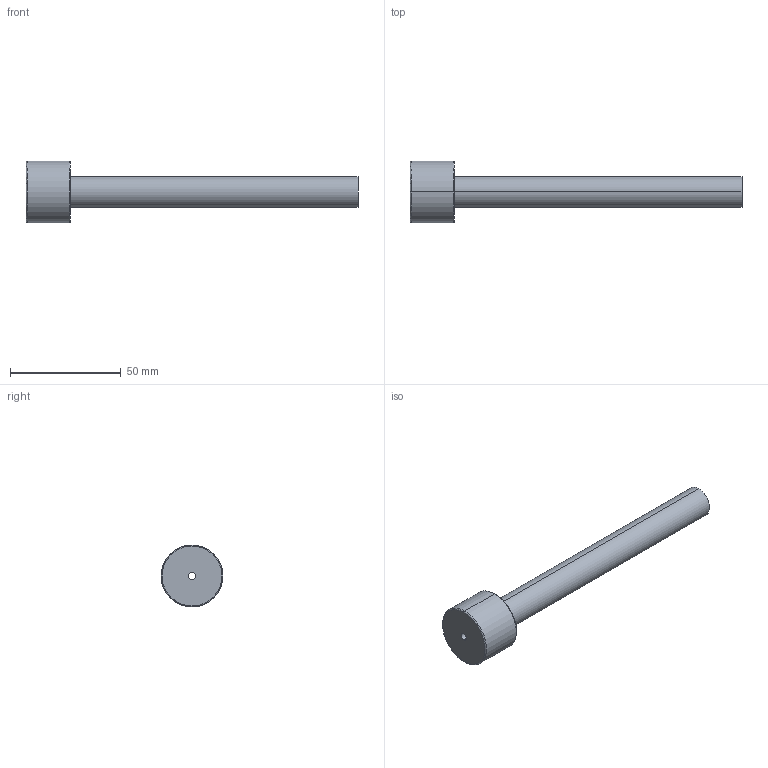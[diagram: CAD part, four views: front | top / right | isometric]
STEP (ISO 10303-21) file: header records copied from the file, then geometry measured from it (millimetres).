
FILE_DESCRIPTION(('CATIA V5 STEP Exchange'),'2;1');
FILE_NAME('C:\Users\Utente\Desktop\IO LAVORO\3D X SITO CF\X SITO\PLASTICA\3D files 367\367-14X150.stp','2021-03-24T15:19:32+00:00',('none'),('none'),'CATIA Version 5 Release 20 GA (IN-10)','CATIA V5 STEP AP203','none');
FILE_SCHEMA(('CONFIG_CONTROL_DESIGN'));
Length unit declared in the file: millimetre
Products named in the file (1): 367-14X150
Bounding box: 150 x 28 x 28 mm (x, y, z)
Volume: 25557.1 mm3; surface area: 11971.5 mm2
Topology: 1 solids, 1 shells, 13 faces, 42 edges, 32 vertices
Faces by surface type: torus 4, cylinder 4, plane 3, cone 2
Entity records: 608 total; most frequent: CARTESIAN_POINT 194, ORIENTED_EDGE 84, DIRECTION 60, AXIS2_PLACEMENT_3D 42, EDGE_CURVE 42, VERTEX_POINT 32, CIRCLE 28, EDGE_LOOP 16
